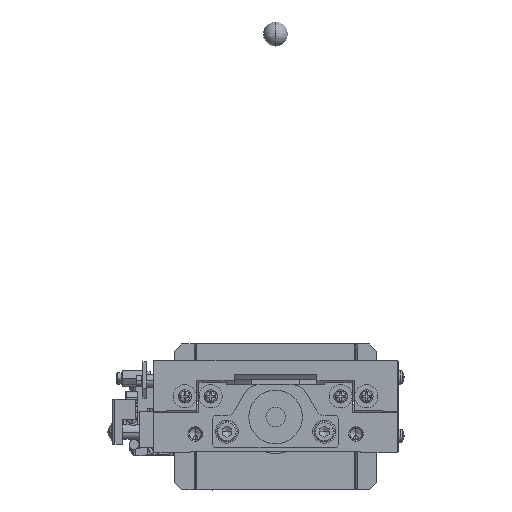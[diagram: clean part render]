
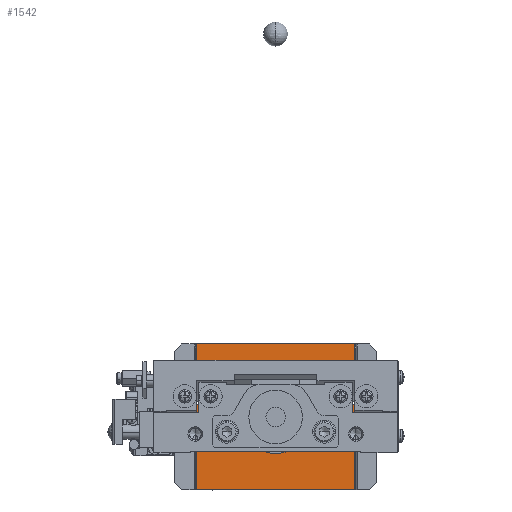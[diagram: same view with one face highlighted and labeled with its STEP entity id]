
A CAD part, left-side view. The second image highlights one B-rep face of the part: STEP entity #1542.
In plain terms, the highlighted planar face has unit normal (-1, 0, 0).
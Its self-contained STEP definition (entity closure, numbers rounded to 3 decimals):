
#1542=ADVANCED_FACE('',(#17881,#17882),#17880,.T.);
#17880=PLANE('',#49677);
#17881=FACE_OUTER_BOUND('',#49678,.T.);
#17882=FACE_BOUND('',#49679,.T.);
#49674=CARTESIAN_POINT('',(86.,-39.,50.7));
#49675=DIRECTION('',(-1.,0.,0.));
#49676=DIRECTION('',(0.,1.,0.));
#49677=AXIS2_PLACEMENT_3D('',#49674,#49675,#49676);
#49678=EDGE_LOOP('',(#70407,#70408,#70409,#70410,#70411,#70412,#70413,#70414,#70415,#70416,#70417,#70418,#70419,#70420,#70421,#70422));
#49679=EDGE_LOOP('',(#70423,#70424));
#70407=ORIENTED_EDGE('',*,*,#84706,.F.);
#70408=ORIENTED_EDGE('',*,*,#85297,.T.);
#70409=ORIENTED_EDGE('',*,*,#85298,.T.);
#70410=ORIENTED_EDGE('',*,*,#84705,.F.);
#70411=ORIENTED_EDGE('',*,*,#85299,.F.);
#70412=ORIENTED_EDGE('',*,*,#85300,.T.);
#70413=ORIENTED_EDGE('',*,*,#85301,.T.);
#70414=ORIENTED_EDGE('',*,*,#85302,.T.);
#70415=ORIENTED_EDGE('',*,*,#85303,.T.);
#70416=ORIENTED_EDGE('',*,*,#85304,.T.);
#70417=ORIENTED_EDGE('',*,*,#85305,.T.);
#70418=ORIENTED_EDGE('',*,*,#84685,.T.);
#70419=ORIENTED_EDGE('',*,*,#85306,.T.);
#70420=ORIENTED_EDGE('',*,*,#85307,.F.);
#70421=ORIENTED_EDGE('',*,*,#85308,.T.);
#70422=ORIENTED_EDGE('',*,*,#85309,.T.);
#70423=ORIENTED_EDGE('',*,*,#85310,.T.);
#70424=ORIENTED_EDGE('',*,*,#85311,.T.);
#84685=EDGE_CURVE('',#110553,#110546,#110554,.T.);
#84705=EDGE_CURVE('',#110684,#110468,#110691,.T.);
#84706=EDGE_CURVE('',#110469,#110697,#110698,.T.);
#85297=EDGE_CURVE('',#110469,#114696,#114697,.T.);
#85298=EDGE_CURVE('',#114696,#110468,#114703,.T.);
#85299=EDGE_CURVE('',#114709,#110684,#114710,.T.);
#85300=EDGE_CURVE('',#114709,#114716,#114717,.T.);
#85301=EDGE_CURVE('',#114716,#114723,#114724,.T.);
#85302=EDGE_CURVE('',#114723,#114730,#114731,.T.);
#85303=EDGE_CURVE('',#114730,#114737,#114738,.T.);
#85304=EDGE_CURVE('',#114737,#114744,#114745,.T.);
#85305=EDGE_CURVE('',#114744,#110553,#114751,.T.);
#85306=EDGE_CURVE('',#110546,#114757,#114758,.T.);
#85307=EDGE_CURVE('',#114764,#114757,#114765,.T.);
#85308=EDGE_CURVE('',#114764,#114771,#114772,.T.);
#85309=EDGE_CURVE('',#114771,#110697,#114778,.T.);
#85310=EDGE_CURVE('',#114784,#114785,#114786,.T.);
#85311=EDGE_CURVE('',#114785,#114784,#114792,.T.);
#110468=VERTEX_POINT('',#162700);
#110469=VERTEX_POINT('',#162701);
#110546=VERTEX_POINT('',#162747);
#110553=VERTEX_POINT('',#162751);
#110554=LINE('',#162752,#162753);
#110684=VERTEX_POINT('',#162825);
#110691=LINE('',#162829,#162830);
#110697=VERTEX_POINT('',#162832);
#110698=LINE('',#162833,#162834);
#114696=VERTEX_POINT('',#165455);
#114697=CIRCLE('',#165459,6.);
#114703=CIRCLE('',#165463,6.);
#114709=VERTEX_POINT('',#165464);
#114710=LINE('',#165465,#165466);
#114716=VERTEX_POINT('',#165468);
#114717=LINE('',#165469,#165470);
#114723=VERTEX_POINT('',#165472);
#114724=CIRCLE('',#165476,6.);
#114730=VERTEX_POINT('',#165477);
#114731=CIRCLE('',#165481,6.);
#114737=VERTEX_POINT('',#165482);
#114738=LINE('',#165483,#165484);
#114744=VERTEX_POINT('',#165486);
#114745=CIRCLE('',#165490,4.5);
#114751=CIRCLE('',#165494,4.5);
#114757=VERTEX_POINT('',#165495);
#114758=LINE('',#165496,#165497);
#114764=VERTEX_POINT('',#165499);
#114765=LINE('',#165500,#165501);
#114771=VERTEX_POINT('',#165503);
#114772=CIRCLE('',#165507,4.5);
#114778=CIRCLE('',#165511,4.5);
#114784=VERTEX_POINT('',#165512);
#114785=VERTEX_POINT('',#165513);
#114786=CIRCLE('',#165517,15.);
#114792=CIRCLE('',#165521,15.);
#162700=CARTESIAN_POINT('',(86.,32.5,1.721));
#162701=CARTESIAN_POINT('',(86.,32.5,13.679));
#162747=CARTESIAN_POINT('',(86.,-32.5,44.7));
#162751=CARTESIAN_POINT('',(86.,-32.5,28.672));
#162752=CARTESIAN_POINT('',(86.,-32.5,28.672));
#162753=VECTOR('',#162754,16.028);
#162754=DIRECTION('',(0.,0.,1.));
#162825=CARTESIAN_POINT('',(86.,32.5,-15.3));
#162829=CARTESIAN_POINT('',(86.,32.5,-15.3));
#162830=VECTOR('',#162831,17.021);
#162831=DIRECTION('',(0.,0.,1.));
#162832=CARTESIAN_POINT('',(86.,32.5,19.728));
#162833=CARTESIAN_POINT('',(86.,32.5,13.679));
#162834=VECTOR('',#162835,6.049);
#162835=DIRECTION('',(0.,0.,1.));
#165455=CARTESIAN_POINT('',(86.,27.,7.7));
#165456=CARTESIAN_POINT('',(86.,33.,7.7));
#165457=DIRECTION('',(1.,0.,0.));
#165458=DIRECTION('',(0.,1.,0.));
#165459=AXIS2_PLACEMENT_3D('',#165456,#165457,#165458);
#165460=CARTESIAN_POINT('',(86.,33.,7.7));
#165461=DIRECTION('',(1.,0.,0.));
#165462=DIRECTION('',(0.,1.,0.));
#165463=AXIS2_PLACEMENT_3D('',#165460,#165461,#165462);
#165464=CARTESIAN_POINT('',(86.,-32.5,-15.3));
#165465=CARTESIAN_POINT('',(86.,-32.5,-15.3));
#165466=VECTOR('',#165467,65.);
#165467=DIRECTION('',(0.,1.,0.));
#165468=CARTESIAN_POINT('',(86.,-32.5,1.721));
#165469=CARTESIAN_POINT('',(86.,-32.5,-15.3));
#165470=VECTOR('',#165471,17.021);
#165471=DIRECTION('',(0.,0.,1.));
#165472=CARTESIAN_POINT('',(86.,-27.,7.7));
#165473=CARTESIAN_POINT('',(86.,-33.,7.7));
#165474=DIRECTION('',(1.,0.,0.));
#165475=DIRECTION('',(0.,0.083,-0.997));
#165476=AXIS2_PLACEMENT_3D('',#165473,#165474,#165475);
#165477=CARTESIAN_POINT('',(86.,-32.5,13.679));
#165478=CARTESIAN_POINT('',(86.,-33.,7.7));
#165479=DIRECTION('',(1.,0.,0.));
#165480=DIRECTION('',(0.,0.083,-0.997));
#165481=AXIS2_PLACEMENT_3D('',#165478,#165479,#165480);
#165482=CARTESIAN_POINT('',(86.,-32.5,19.728));
#165483=CARTESIAN_POINT('',(86.,-32.5,13.679));
#165484=VECTOR('',#165485,6.049);
#165485=DIRECTION('',(0.,0.,1.));
#165486=CARTESIAN_POINT('',(86.,-27.5,24.2));
#165487=CARTESIAN_POINT('',(86.,-32.,24.2));
#165488=DIRECTION('',(1.,0.,0.));
#165489=DIRECTION('',(0.,-0.111,-0.994));
#165490=AXIS2_PLACEMENT_3D('',#165487,#165488,#165489);
#165491=CARTESIAN_POINT('',(86.,-32.,24.2));
#165492=DIRECTION('',(1.,0.,0.));
#165493=DIRECTION('',(0.,-0.111,-0.994));
#165494=AXIS2_PLACEMENT_3D('',#165491,#165492,#165493);
#165495=CARTESIAN_POINT('',(86.,32.5,44.7));
#165496=CARTESIAN_POINT('',(86.,-32.5,44.7));
#165497=VECTOR('',#165498,65.);
#165498=DIRECTION('',(0.,1.,0.));
#165499=CARTESIAN_POINT('',(86.,32.5,28.672));
#165500=CARTESIAN_POINT('',(86.,32.5,28.672));
#165501=VECTOR('',#165502,16.028);
#165502=DIRECTION('',(0.,0.,1.));
#165503=CARTESIAN_POINT('',(86.,27.5,24.2));
#165504=CARTESIAN_POINT('',(86.,32.,24.2));
#165505=DIRECTION('',(1.,0.,0.));
#165506=DIRECTION('',(0.,1.,0.));
#165507=AXIS2_PLACEMENT_3D('',#165504,#165505,#165506);
#165508=CARTESIAN_POINT('',(86.,32.,24.2));
#165509=DIRECTION('',(1.,0.,0.));
#165510=DIRECTION('',(0.,1.,0.));
#165511=AXIS2_PLACEMENT_3D('',#165508,#165509,#165510);
#165512=CARTESIAN_POINT('',(86.,-15.,14.7));
#165513=CARTESIAN_POINT('',(86.,15.,14.7));
#165514=CARTESIAN_POINT('',(86.,0.,14.7));
#165515=DIRECTION('',(1.,0.,0.));
#165516=DIRECTION('',(0.,-1.,0.));
#165517=AXIS2_PLACEMENT_3D('',#165514,#165515,#165516);
#165518=CARTESIAN_POINT('',(86.,0.,14.7));
#165519=DIRECTION('',(1.,0.,0.));
#165520=DIRECTION('',(0.,-1.,0.));
#165521=AXIS2_PLACEMENT_3D('',#165518,#165519,#165520);
